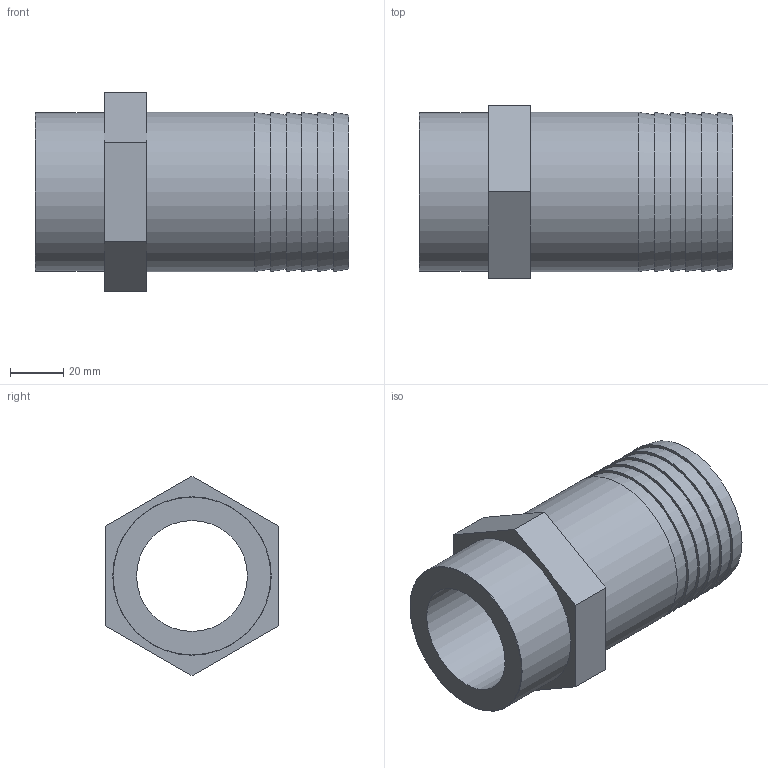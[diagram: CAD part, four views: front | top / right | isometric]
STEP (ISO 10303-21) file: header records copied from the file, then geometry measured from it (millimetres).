
FILE_DESCRIPTION(/* description */ ('PLASSON THREADED HOSE NOZZLE 2"-60'),/* implementation_level */ '2;1');
FILE_NAME(/* name */ 'C:\Dropbox\KIMPROJECTS-Inventor\99-16-3568-Processing\PVC Catalog 2017\053601\053601060020.ipt.stp',/* time_stamp */ '2017-12-07T16:03:26+02:00',/* author */ ('KIM'),/* organization */ (''),/* preprocessor_version */ 'ST-DEVELOPER v15.6',/* originating_system */ 'Autodesk Inventor 2015',/* authorisation */ '');
FILE_SCHEMA (('AUTOMOTIVE_DESIGN { 1 0 10303 214 3 1 1 }'));
Length unit declared in the file: millimetre
Products named in the file (1): 053601060020
Bounding box: 118 x 65 x 75.06 mm (x, y, z)
Volume: 181181.8 mm3; surface area: 43596.4 mm2
Topology: 1 solids, 1 shells, 25 faces, 46 edges, 30 vertices
Faces by surface type: plane 15, cone 6, cylinder 3, torus 1
Full cylindrical faces by diameter (mm): 41.73 x1, 59.614 x1, 60 x1
Entity records: 600 total; most frequent: DIRECTION 106, CARTESIAN_POINT 92, ORIENTED_EDGE 72, EDGE_LOOP 44, AXIS2_PLACEMENT_3D 44, EDGE_CURVE 36, VERTEX_POINT 30, FACE_OUTER_BOUND 25
